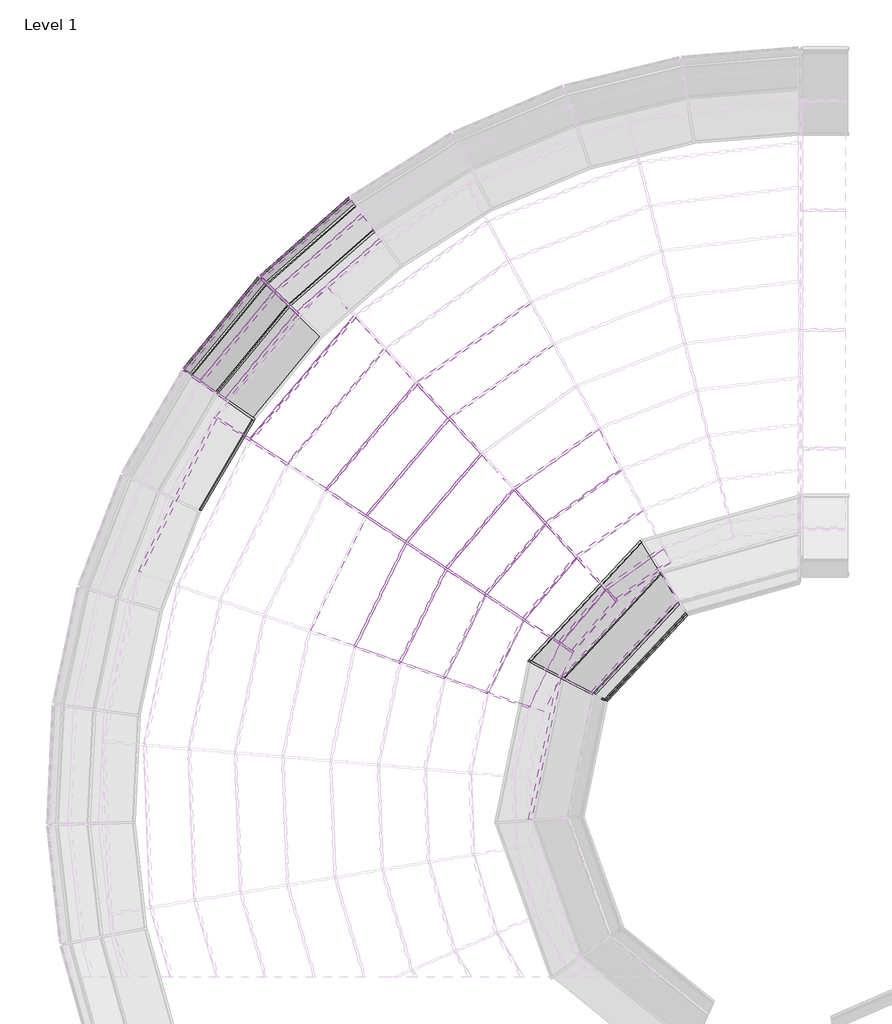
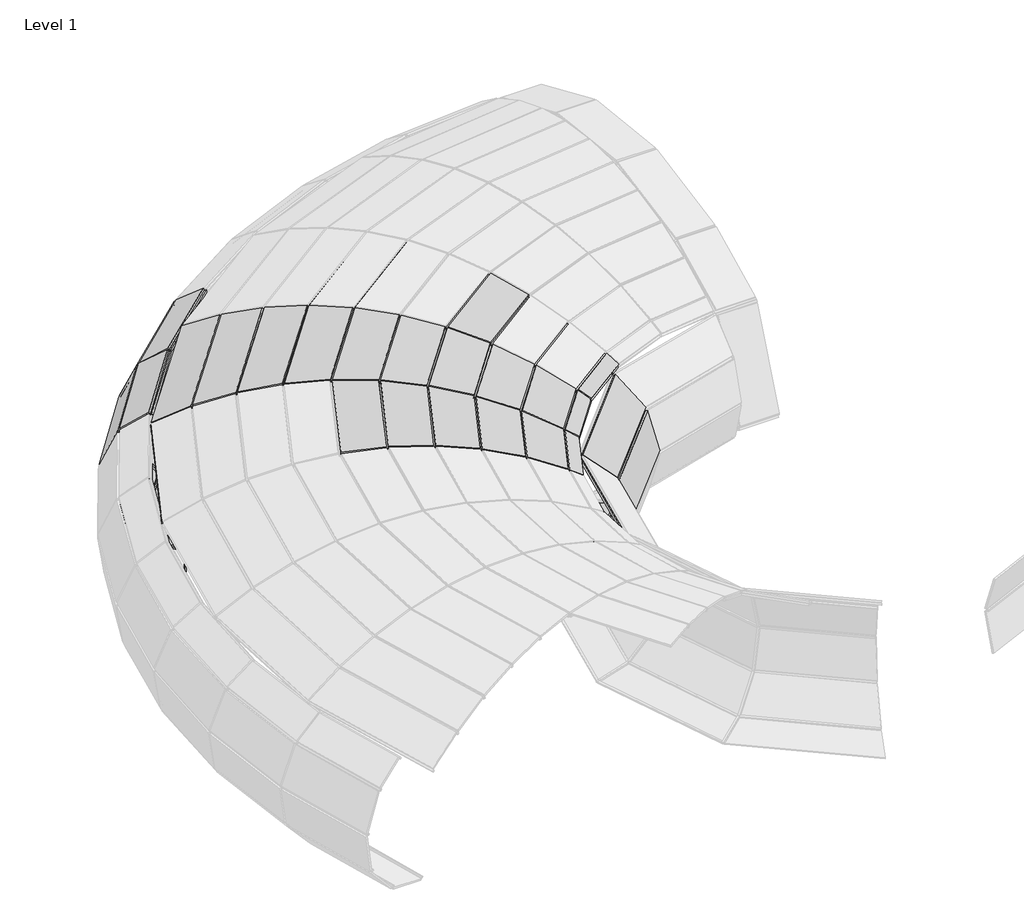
# One storey, part 14 of 23: 69 members, 30 plates.
"""IFC4 building model written with IfcOpenShell, lengths in millimetres."""

from ifc_helpers import new_model, si_unit, origin, place, context, project, spatial, transform, mapped, element, save
from components import member_d6b8231b, member_8c9da58c, member_391bee44, member_01ebdf2a, member_0cd36c09, member_d0a40a1c, member_ff9adfd2, member_e4cc2466, member_6c4aaba8, member_c876edb5, member_782630c7, member_398e5ff5, member_0ea93e7c, member_01d9c279, member_398607d0, member_5ccaa950, member_8174f0e4, member_af15374c, member_9c203333, member_86c07ba8, member_0e8a41c0, member_f532ae18, member_ff5bcfe9, member_5080b2ef, member_18f2ae55, member_cb0bb3a9, member_172ab1ab, member_54499f2f, member_c8b9029b, system_panel_glazed_a6d149b5, system_panel_glazed_185472ef, system_panel_glazed_d90a1b68, system_panel_glazed_7d733e69, system_panel_glazed_1f33159c, system_panel_glazed_b4bd1deb, system_panel_glazed_ffd0fcf6, system_panel_glazed_fd5b3178, system_panel_glazed_7646b435, system_panel_glazed_4562f0d4, system_panel_glazed_020edd5b, system_panel_glazed_973a940c, system_panel_glazed_7e9fb579, system_panel_glazed_aab04364, system_panel_glazed_9094d4f4, system_panel_glazed_e73db01d, system_panel_glazed_0c479225, system_panel_glazed_5bffbcfe, system_panel_glazed_024423c3

model = new_model("IFC4")

# Units and contexts
model_context = context("Model", 3, world=origin())
ifc_project = project(units=[si_unit("LENGTHUNIT", "METRE", prefix="MILLI")], contexts=[model_context])

# Site, building, storey
site = spatial("IfcSite", under=ifc_project)
building = spatial("IfcBuilding", under=site)
storey = spatial("IfcBuildingStorey", under=building, Name="Level 1", Elevation=0.0)

# Members
placement = place(None, origin())
member_shape = member_d6b8231b(model_context)
element("IfcMember", 1, ObjectType="Rectangular Mullion : 1\" Square", at=placement, inside=storey, context=model_context, shape_type="MappedRepresentation", body=[
    mapped(member_shape, transform((-16847.7563878, 3496.1601929, 0.0), x_axis=(-0.5725189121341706, -0.8198915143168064, 0.0), y_axis=(-0.22981368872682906, 0.16047572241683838, -0.9599131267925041), z_axis=(0.7870246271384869, -0.5495684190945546, -0.28029767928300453))),
])
member_2_shape = member_8c9da58c(model_context)
element("IfcMember", 2, ObjectType="Rectangular Mullion : 1\" Square", at=placement, inside=storey, context=model_context, shape_type="MappedRepresentation", body=[
    mapped(member_2_shape, transform((-16406.6716612, 4947.645606, 170.8694653), x_axis=(-0.6959761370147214, -0.7180649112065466, 0.0), y_axis=(-0.540562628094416, 0.523934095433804, -0.6582439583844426), z_axis=(0.472661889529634, -0.4581220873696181, -0.7528046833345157))),
])
element("IfcMember", 3, ObjectType="Rectangular Mullion : 1\" Square", at=placement, inside=storey, context=model_context, shape_type="MappedRepresentation", body=[
    mapped(member_2_shape, transform((-16694.8063491, 5226.9168304, 629.7792003), x_axis=(-0.695976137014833, -0.7180649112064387, 0.0), y_axis=(-0.7099722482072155, 0.6881324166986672, -0.1497103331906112), z_axis=(0.10750173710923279, -0.10419481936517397, -0.9887299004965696))),
])
element("IfcMember", 4, ObjectType="Rectangular Mullion : 1\" Square", at=placement, inside=storey, context=model_context, shape_type="MappedRepresentation", body=[
    mapped(member_2_shape, transform((-17327.5266005, 3831.1771012, 170.8694653), x_axis=(-0.5725189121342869, -0.819891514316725, 0.0), y_axis=(-0.6172181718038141, 0.43099491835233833, -0.6582439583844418), z_axis=(0.5396886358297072, -0.37685711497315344, -0.7528046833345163))),
])
element("IfcMember", 5, ObjectType="Rectangular Mullion : 1\" Square", at=placement, inside=storey, context=model_context, shape_type="MappedRepresentation", body=[
    mapped(member_2_shape, transform((-17656.5207929, 4060.9091985, 629.7792003), x_axis=(-0.5725189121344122, -0.8198915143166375, 0.0), y_axis=(-0.8106512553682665, 0.5660665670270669, -0.14971033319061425), z_axis=(0.1227462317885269, -0.08571199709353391, -0.9887299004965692))),
])
member_3_shape = member_391bee44(model_context)
element("IfcMember", 6, ObjectType="Rectangular Mullion : 1\" Square", at=placement, inside=storey, context=model_context, shape_type="MappedRepresentation", body=[
    mapped(member_3_shape, transform((-16760.339408, 5290.4339923, 1232.5089476), x_axis=(-0.695976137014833, -0.7180649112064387, 0.0), y_axis=(-0.6562609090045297, 0.6360733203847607, 0.4058723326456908), z_axis=(-0.2914426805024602, 0.2824774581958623, -0.9139297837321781))),
])
element("IfcMember", 7, ObjectType="Rectangular Mullion : 1\" Square", at=placement, inside=storey, context=model_context, shape_type="MappedRepresentation", body=[
    mapped(member_3_shape, transform((-17731.3468958, 4113.1592319, 1232.5089476), x_axis=(-0.5725189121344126, -0.8198915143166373, 0.0), y_axis=(-0.749323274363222, 0.5232420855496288, 0.40587233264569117), z_axis=(-0.3327712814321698, 0.23236958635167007, -0.9139297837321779))),
])
member_4_shape = member_01ebdf2a(model_context)
element("IfcMember", 8, ObjectType="Rectangular Mullion : 1\" Square", at=placement, inside=storey, context=model_context, shape_type="MappedRepresentation", body=[
    mapped(member_4_shape, transform((-16582.67595, 5118.2357338, 1789.6405438), x_axis=(-0.6959761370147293, -0.718064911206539, 0.0), y_axis=(-0.4278661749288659, 0.41470435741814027, 0.8030883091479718), z_axis=(-0.5766695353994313, 0.5589302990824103, -0.5958600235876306))),
])
element("IfcMember", 9, ObjectType="Rectangular Mullion : 1\" Square", at=placement, inside=storey, context=model_context, shape_type="MappedRepresentation", body=[
    mapped(member_4_shape, transform((-17528.4895226, 3971.5067321, 1789.6405438), x_axis=(-0.5725189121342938, -0.8198915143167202, 0.0), y_axis=(-0.48854057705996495, 0.3411411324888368, 0.8030883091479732), z_axis=(-0.6584452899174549, 0.4597832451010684, -0.5958600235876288))),
])
member_5_shape = member_0cd36c09(model_context)
element("IfcMember", 10, ObjectType="Rectangular Mullion : 1\" Square", at=placement, inside=storey, context=model_context, shape_type="MappedRepresentation", body=[
    mapped(member_5_shape, transform((-14782.0503771, 3958.0936242, 2763.3769688), x_axis=(-0.7366889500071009, -0.6762317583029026, 0.0), y_axis=(-0.09628869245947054, 0.10489719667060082, 0.9898106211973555), z_axis=(-0.6693413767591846, 0.7291825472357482, -0.14239007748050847))),
])
element("IfcMember", 11, ObjectType="Rectangular Mullion : 1\" Square", at=placement, inside=storey, context=model_context, shape_type="MappedRepresentation", body=[
    mapped(member_5_shape, transform((-14374.0198738, 3513.5839434, 2850.17796), x_axis=(-0.7366889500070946, -0.6762317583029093, 0.0), y_axis=(-0.015910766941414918, 0.01733323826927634, 0.9997231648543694), z_axis=(-0.6760445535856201, 0.7364850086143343, -0.02352857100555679))),
])
element("IfcMember", 12, ObjectType="Rectangular Mullion : 1\" Square", at=placement, inside=storey, context=model_context, shape_type="MappedRepresentation", body=[
    mapped(member_5_shape, transform((-16898.66094, 3236.6483389, 2378.3537392), x_axis=(-0.5485388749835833, -0.8361250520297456, 0.0), y_axis=(-0.3113511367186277, 0.20426155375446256, 0.9280828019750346), z_axis=(-0.7759932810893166, 0.5090894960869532, -0.3723738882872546))),
])
element("IfcMember", 13, ObjectType="Rectangular Mullion : 1\" Square", at=placement, inside=storey, context=model_context, shape_type="MappedRepresentation", body=[
    mapped(member_5_shape, transform((-15933.3368853, 2603.3486074, 2763.3769688), x_axis=(-0.5485388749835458, -0.8361250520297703, 0.0), y_axis=(-0.11905591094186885, 0.07810649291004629, 0.9898106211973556), z_axis=(-0.8276054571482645, 0.5429496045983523, -0.14239007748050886))),
])
element("IfcMember", 14, ObjectType="Rectangular Mullion : 1\" Square", at=placement, inside=storey, context=model_context, shape_type="MappedRepresentation", body=[
    mapped(member_5_shape, transform((-15428.8285986, 2272.3665284, 2850.17796), x_axis=(-0.5485388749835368, -0.8361250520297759, 0.0), y_axis=(-0.019672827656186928, 0.012906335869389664, 0.9997231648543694), z_axis=(-0.8358935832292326, 0.548387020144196, -0.02352857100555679))),
])
element("IfcMember", 15, ObjectType="Rectangular Mullion : 1\" Square", at=placement, inside=storey, context=model_context, shape_type="MappedRepresentation", body=[
    mapped(member_5_shape, transform((-13551.5630008, 2617.5969053, 2806.2019711), x_axis=(-0.7366889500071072, -0.6762317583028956, 0.0), y_axis=(0.1443774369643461, -0.15728522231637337, 0.9769424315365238), z_axis=(-0.660639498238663, 0.7197026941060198, 0.2135028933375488))),
])
element("IfcMember", 16, ObjectType="Rectangular Mullion : 1\" Square", at=placement, inside=storey, context=model_context, shape_type="MappedRepresentation", body=[
    mapped(member_5_shape, transform((-13148.8371627, 2178.866143, 2676.0506073), x_axis=(-0.7366889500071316, -0.6762317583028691, 0.0), y_axis=(0.22200740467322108, -0.2418555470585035, 0.9445732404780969), z_axis=(-0.6387504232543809, 0.6958566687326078, 0.3283007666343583))),
])
element("IfcMember", 17, ObjectType="Rectangular Mullion : 1\" Square", at=placement, inside=storey, context=model_context, shape_type="MappedRepresentation", body=[
    mapped(member_5_shape, transform((-14919.2678703, 1938.069801, 2864.5209769), x_axis=(-0.5485388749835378, -0.8361250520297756, 0.0), y_axis=(0.07999012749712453, -0.05247743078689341, 0.9954133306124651), z_axis=(-0.8322900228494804, 0.5460229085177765, 0.09566766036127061))),
])
element("IfcMember", 18, ObjectType="Rectangular Mullion : 1\" Square", at=placement, inside=storey, context=model_context, shape_type="MappedRepresentation", body=[
    mapped(member_5_shape, transform((-14411.9038723, 1605.2142359, 2806.2019711), x_axis=(-0.5485388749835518, -0.8361250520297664, 0.0), y_axis=(0.17851511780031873, -0.11711463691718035, 0.9769424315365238), z_axis=(-0.8168460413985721, 0.5358909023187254, 0.21350289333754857))),
])
element("IfcMember", 19, ObjectType="Rectangular Mullion : 1\" Square", at=placement, inside=storey, context=model_context, shape_type="MappedRepresentation", body=[
    mapped(member_5_shape, transform((-13913.9545255, 1278.5351419, 2676.0506073), x_axis=(-0.548538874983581, -0.8361250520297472, 0.0), y_axis=(0.2745004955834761, -0.1800857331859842, 0.944573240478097), z_axis=(-0.7897813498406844, 0.5181351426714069, 0.3283007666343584))),
])
element("IfcMember", 20, ObjectType="Rectangular Mullion : 1\" Square", at=placement, inside=storey, context=model_context, shape_type="MappedRepresentation", body=[
    mapped(member_5_shape, transform((-15571.4158676, 611.2798175, 2864.5209769), x_axis=(-0.3269464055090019, -0.9450428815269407, 0.0), y_axis=(0.09041004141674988, -0.031278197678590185, 0.9954133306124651), z_axis=(-0.9407082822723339, 0.3254468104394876, 0.09566766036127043))),
])
element("IfcMember", 21, ObjectType="Rectangular Mullion : 1\" Square", at=placement, inside=storey, context=model_context, shape_type="MappedRepresentation", body=[
    mapped(member_5_shape, transform((-14997.9600987, 412.8874418, 2806.2019711), x_axis=(-0.3269464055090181, -0.9450428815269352, 0.0), y_axis=(0.20176938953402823, -0.06980400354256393, 0.9769424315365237), z_axis=(-0.9232524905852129, 0.31940781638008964, 0.21350289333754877))),
])
element("IfcMember", 22, ObjectType="Rectangular Mullion : 1\" Square", at=placement, inside=storey, context=model_context, shape_type="MappedRepresentation", body=[
    mapped(member_5_shape, transform((-14435.1453805, 218.176437, 2676.0506073), x_axis=(-0.3269464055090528, -0.9450428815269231, 0.0), y_axis=(0.31025830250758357, -0.1073367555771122, 0.9445732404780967), z_axis=(-0.8926622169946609, 0.3088248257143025, 0.3283007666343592))),
])
member_6_shape = member_d0a40a1c(model_context)
element("IfcMember", 23, ObjectType="Rectangular Mullion : 1\" Square", at=placement, inside=storey, context=model_context, shape_type="MappedRepresentation", body=[
    mapped(member_6_shape, transform((-12759.4549047, 1754.6719177, 2475.91846), x_axis=(-0.736688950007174, -0.676231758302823, 0.0), y_axis=(0.29647902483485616, -0.32298515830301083, 0.8987662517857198), z_axis=(-0.607774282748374, 0.6621111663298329, 0.438428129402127))),
])
element("IfcMember", 24, ObjectType="Rectangular Mullion : 1\" Square", at=placement, inside=storey, context=model_context, shape_type="MappedRepresentation", body=[
    mapped(member_6_shape, transform((-13432.5038146, 962.6799589, 2475.91846), x_axis=(-0.5485388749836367, -0.8361250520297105, 0.0), y_axis=(0.3665807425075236, -0.2404948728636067, 0.8987662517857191), z_axis=(-0.7514809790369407, 0.49300822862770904, 0.4384281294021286))),
])
element("IfcMember", 25, ObjectType="Rectangular Mullion : 1\" Square", at=placement, inside=storey, context=model_context, shape_type="MappedRepresentation", body=[
    mapped(member_6_shape, transform((-13890.978493, 29.9168232, 2475.91846), x_axis=(-0.326946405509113, -0.9450428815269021, 0.0), y_axis=(0.414333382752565, -0.14334250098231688, 0.8987662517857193), z_axis=(-0.8493726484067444, 0.2938483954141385, 0.4384281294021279))),
])
member_7_shape = member_ff9adfd2(model_context)
element("IfcMember", 26, ObjectType="Rectangular Mullion : 1\" Square", at=placement, inside=storey, context=model_context, shape_type="MappedRepresentation", body=[
    mapped(member_7_shape, transform((-12388.9557019, 1351.0489507, 2208.6526723), x_axis=(-0.7366889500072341, -0.6762317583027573, 0.0), y_axis=(0.34596383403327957, -0.3768940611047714, 0.8592205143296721), z_axis=(-0.581032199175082, 0.632978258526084, 0.5116054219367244))),
])
element("IfcMember", 27, ObjectType="Rectangular Mullion : 1\" Square", at=placement, inside=storey, context=model_context, shape_type="MappedRepresentation", body=[
    mapped(member_7_shape, transform((-12974.4010098, 662.1421427, 2208.6526723), x_axis=(-0.5485388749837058, -0.8361250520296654, 0.0), y_axis=(0.4277661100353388, -0.28063546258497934, 0.8592205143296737), z_axis=(-0.7184157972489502, 0.4713158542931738, 0.5116054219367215))),
])
member_8_shape = member_e4cc2466(model_context)
element("IfcMember", 28, ObjectType="Rectangular Mullion : 1\" Square", at=placement, inside=storey, context=model_context, shape_type="MappedRepresentation", body=[
    mapped(member_8_shape, transform((-17345.7437028, 3529.9564693, 2085.6089632), x_axis=(-0.548538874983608, -0.8361250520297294, 0.0), y_axis=(-0.40152762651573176, 0.26342173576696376, 0.8771456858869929), z_axis=(-0.7334034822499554, 0.48114850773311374, -0.48022437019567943))),
])
element("IfcMember", 29, ObjectType="Rectangular Mullion : 1\" Square", at=placement, inside=storey, context=model_context, shape_type="MappedRepresentation", body=[
    mapped(member_2_shape, transform((-12565.3444488, 24.0008489, 1696.6281859), x_axis=(-0.4589979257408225, -0.8884373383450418, 0.0), y_axis=(0.8459339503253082, -0.4370391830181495, 0.305601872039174), z_axis=(-0.2715081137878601, 0.14027062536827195, 0.952159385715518))),
])
element("IfcMember", 30, ObjectType="Rectangular Mullion : 1\" Square", at=placement, inside=storey, context=model_context, shape_type="MappedRepresentation", body=[
    mapped(member_3_shape, transform((-12537.8290534, 9.7854294, 526.7119632), x_axis=(-0.45899792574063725, -0.8884373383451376, 0.0), y_axis=(0.6023028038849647, -0.31117077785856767, -0.7351218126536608), z_axis=(0.6531096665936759, -0.3374193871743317, 0.6779350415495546))),
])
element("IfcMember", 31, ObjectType="Rectangular Mullion : 1\" Square", at=placement, inside=storey, context=model_context, shape_type="MappedRepresentation", body=[
    mapped(member_4_shape, transform((-12935.9647062, 215.4762879, 113.4427618), x_axis=(-0.4589979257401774, -0.8884373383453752, 0.0), y_axis=(0.20290954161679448, -0.10483019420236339, -0.9735698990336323), z_axis=(0.8649558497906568, -0.44686656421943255, 0.22838925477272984))),
])
element("IfcMember", 32, ObjectType="Rectangular Mullion : 1\" Square", at=placement, inside=storey, context=model_context, shape_type="MappedRepresentation", body=[
    mapped(member_shape, transform((-12982.3483119, 239.4396873, 2085.6089632), x_axis=(-0.4589979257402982, -0.8884373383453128, 0.0), y_axis=(0.5669046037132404, -0.2928828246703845, 0.7699602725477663), z_axis=(-0.6840614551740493, 0.3534101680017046, 0.6380918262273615))),
])
member_9_shape = member_6c4aaba8(model_context)
element("IfcMember", 33, ObjectType="Rectangular Mullion : 1\" Square", at=placement, inside=storey, context=model_context, shape_type="MappedRepresentation", body=[
    mapped(member_9_shape, transform((-16890.4368284, 3246.325838, 2378.3537392), x_axis=(0.6900506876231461, -0.5864173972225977, 0.4241988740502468), y_axis=(-0.3232428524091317, 0.2746975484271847, 0.9055690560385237), z_axis=(-0.6475678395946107, -0.7620078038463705, 0.0))),
])
member_10_shape = member_c876edb5(model_context)
element("IfcMember", 34, ObjectType="Rectangular Mullion : 1\" Square", at=placement, inside=storey, context=model_context, shape_type="MappedRepresentation", body=[
    mapped(member_10_shape, transform((-13138.4925219, 2186.2335311, 2676.0506073), x_axis=(0.558593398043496, -0.7843279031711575, -0.2698205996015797), y_axis=(0.15652543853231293, -0.21977930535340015, 0.962910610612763), z_axis=(-0.8145386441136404, -0.5801092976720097, 0.0))),
])
element("IfcMember", 35, ObjectType="Rectangular Mullion : 1\" Square", at=placement, inside=storey, context=model_context, shape_type="MappedRepresentation", body=[
    mapped(member_10_shape, transform((-13905.7304139, 1288.212641, 2676.0506073), x_axis=(0.7337453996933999, -0.6235499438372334, -0.26982059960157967), y_axis=(0.20560540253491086, -0.17472714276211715, 0.9629106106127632), z_axis=(-0.6475678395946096, -0.7620078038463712, 0.0))),
])
element("IfcMember", 36, ObjectType="Rectangular Mullion : 1\" Square", at=placement, inside=storey, context=model_context, shape_type="MappedRepresentation", body=[
    mapped(member_10_shape, transform((-14429.5431919, 229.5740456, 2676.0506073), x_axis=(0.8641636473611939, -0.42475644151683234, -0.2698205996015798), y_axis=(0.2421503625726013, -0.11902250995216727, 0.962910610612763), z_axis=(-0.4411172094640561, -0.8974495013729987, 0.0))),
])
member_11_shape = member_782630c7(model_context)
element("IfcMember", 37, ObjectType="Rectangular Mullion : 1\" Square", at=placement, inside=storey, context=model_context, shape_type="MappedRepresentation", body=[
    mapped(member_11_shape, transform((-12749.1102639, 1762.0393058, 2475.91846), x_axis=(0.5361352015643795, -0.7527940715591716, -0.38191639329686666), y_axis=(0.22155325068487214, -0.3110856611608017, 0.9241968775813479), z_axis=(-0.8145386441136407, -0.5801092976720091, 0.0))),
])
element("IfcMember", 38, ObjectType="Rectangular Mullion : 1\" Square", at=placement, inside=storey, context=model_context, shape_type="MappedRepresentation", body=[
    mapped(member_11_shape, transform((-13424.2797031, 972.357458, 2475.91846), x_axis=(0.7042452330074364, -0.5984801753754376, -0.38191639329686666), y_axis=(0.29102327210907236, -0.24731677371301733, 0.924196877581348), z_axis=(-0.64756783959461, -0.7620078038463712, 0.0))),
])
element("IfcMember", 39, ObjectType="Rectangular Mullion : 1\" Square", at=placement, inside=storey, context=model_context, shape_type="MappedRepresentation", body=[
    mapped(member_11_shape, transform((-13885.3763044, 41.3144319, 2475.91846), x_axis=(0.8294200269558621, -0.4076791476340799, -0.3819163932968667), y_axis=(0.3427506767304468, -0.1684698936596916, 0.924196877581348), z_axis=(-0.44111720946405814, -0.8974495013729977, 0.0))),
])
member_12_shape = member_398e5ff5(model_context)
element("IfcMember", 40, ObjectType="Rectangular Mullion : 1\" Square", at=placement, inside=storey, context=model_context, shape_type="MappedRepresentation", body=[
    mapped(member_12_shape, transform((-12378.6110611, 1358.4163388, 2208.6526723), x_axis=(0.5060932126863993, -0.7106117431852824, -0.48877460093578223), y_axis=(0.2835426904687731, -0.39812580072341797, 0.8724101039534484), z_axis=(-0.8145386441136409, -0.580109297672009, 0.0))),
])
element("IfcMember", 41, ObjectType="Rectangular Mullion : 1\" Square", at=placement, inside=storey, context=model_context, shape_type="MappedRepresentation", body=[
    mapped(member_12_shape, transform((-12966.1768982, 671.8196418, 2208.6526723), x_axis=(0.6647833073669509, -0.5649447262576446, -0.4887746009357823), y_axis=(0.37245006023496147, -0.3165147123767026, 0.8724101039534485), z_axis=(-0.6475678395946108, -0.7620078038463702, 0.0))),
])
member_13_shape = member_0ea93e7c(model_context)
element("IfcMember", 42, ObjectType="Rectangular Mullion : 1\" Square", at=placement, inside=storey, context=model_context, shape_type="MappedRepresentation", body=[
    mapped(member_13_shape, transform((-14771.7057363, 3965.4610123, 2763.3769688), x_axis=(0.5684549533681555, -0.7981746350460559, 0.19943976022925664), y_axis=(-0.11569685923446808, 0.16245139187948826, 0.97991008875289), z_axis=(-0.8145386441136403, -0.5801092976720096, 0.0))),
])
element("IfcMember", 43, ObjectType="Rectangular Mullion : 1\" Square", at=placement, inside=storey, context=model_context, shape_type="MappedRepresentation", body=[
    mapped(member_13_shape, transform((-15925.1127737, 2613.0261065, 2763.3769688), x_axis=(0.7466991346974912, -0.6345582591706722, 0.19943976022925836), y_axis=(-0.15197465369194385, 0.12915077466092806, 0.9799100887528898), z_axis=(-0.6475678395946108, -0.7620078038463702, 0.0))),
])
member_14_shape = member_01d9c279(model_context)
element("IfcMember", 44, ObjectType="Rectangular Mullion : 1\" Square", at=placement, inside=storey, context=model_context, shape_type="MappedRepresentation", body=[
    mapped(member_14_shape, transform((-14363.675233, 3520.9513315, 2850.17796), x_axis=(0.5781463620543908, -0.8117824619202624, 0.08219500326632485), y_axis=(-0.04768208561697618, 0.06695100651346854, 0.9966162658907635), z_axis=(-0.814538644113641, -0.5801092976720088, 0.0))),
])
element("IfcMember", 45, ObjectType="Rectangular Mullion : 1\" Square", at=placement, inside=storey, context=model_context, shape_type="MappedRepresentation", body=[
    mapped(member_14_shape, transform((-15420.604487, 2282.0440275, 2850.17796), x_axis=(0.7594293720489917, -0.6453766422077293, 0.0821950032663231), y_axis=(-0.06263323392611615, 0.05322684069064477, 0.9966162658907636), z_axis=(-0.6475678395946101, -0.7620078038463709, 0.0))),
])
member_15_shape = member_398607d0(model_context)
element("IfcMember", 46, ObjectType="Rectangular Mullion : 1\" Square", at=placement, inside=storey, context=model_context, shape_type="MappedRepresentation", body=[
    mapped(member_15_shape, transform((-14911.0437587, 1947.7473001, 2864.5209769), x_axis=(0.7615092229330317, -0.6471441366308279, -0.03616863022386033), y_axis=(0.027560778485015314, -0.02342164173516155, 0.9993457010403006), z_axis=(-0.6475678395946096, -0.7620078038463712, 0.0))),
])
element("IfcMember", 47, ObjectType="Rectangular Mullion : 1\" Square", at=placement, inside=storey, context=model_context, shape_type="MappedRepresentation", body=[
    mapped(member_15_shape, transform((-15565.8136791, 622.6774261, 2864.5209769), x_axis=(0.8968623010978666, -0.4408285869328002, -0.03616863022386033), y_axis=(0.0324595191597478, -0.015954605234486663, 0.9993457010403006), z_axis=(-0.4411172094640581, -0.8974495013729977, 0.0))),
])
member_16_shape = member_5ccaa950(model_context)
element("IfcMember", 48, ObjectType="Rectangular Mullion : 1\" Square", at=placement, inside=storey, context=model_context, shape_type="MappedRepresentation", body=[
    mapped(member_16_shape, transform((-13541.21836, 2624.9642934, 2806.2019711), x_axis=(0.5731852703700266, -0.8048165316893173, -0.15404218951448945), y_axis=(0.08936130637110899, -0.12547331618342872, 0.9880642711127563), z_axis=(-0.8145386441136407, -0.580109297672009, 0.0))),
])
element("IfcMember", 49, ObjectType="Rectangular Mullion : 1\" Square", at=placement, inside=storey, context=model_context, shape_type="MappedRepresentation", body=[
    mapped(member_16_shape, transform((-14403.6797608, 1614.891735, 2806.2019711), x_axis=(0.7529126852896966, -0.639838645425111, -0.15404218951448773), y_axis=(0.11738135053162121, -0.09975276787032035, 0.9880642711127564), z_axis=(-0.6475678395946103, -0.7620078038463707, 0.0))),
])
element("IfcMember", 50, ObjectType="Rectangular Mullion : 1\" Square", at=placement, inside=storey, context=model_context, shape_type="MappedRepresentation", body=[
    mapped(member_16_shape, transform((-14992.3579102, 424.2850505, 2806.2019711), x_axis=(0.8867377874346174, -0.43585215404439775, -0.15404218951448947), y_axis=(0.13824508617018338, -0.06795066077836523, 0.9880642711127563), z_axis=(-0.44111720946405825, -0.8974495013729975, 0.0))),
])
member_17_shape = member_8174f0e4(model_context)
element("IfcMember", 51, ObjectType="Rectangular Mullion : 1\" Square", at=placement, inside=storey, context=model_context, shape_type="MappedRepresentation", body=[
    mapped(member_17_shape, transform((-12238.8698585, 1206.1818444, 2085.6089632), x_axis=(0.4974352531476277, -0.6984549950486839, -0.5145082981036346), y_axis=(0.2984710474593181, -0.41908689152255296, 0.857485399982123), z_axis=(-0.8145386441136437, -0.580109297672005, 0.0))),
])
element("IfcMember", 52, ObjectType="Rectangular Mullion : 1\" Square", at=placement, inside=storey, context=model_context, shape_type="MappedRepresentation", body=[
    mapped(member_17_shape, transform((-12793.3942407, 558.4657789, 2085.6089632), x_axis=(0.6534105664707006, -0.5552799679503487, -0.514508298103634), y_axis=(0.3920593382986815, -0.33317902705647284, 0.8574853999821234), z_axis=(-0.6475678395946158, -0.762007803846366, 0.0))),
])
member_18_shape = member_af15374c(model_context)
element("IfcMember", 53, ObjectType="Rectangular Mullion : 1\" Square", at=placement, inside=storey, context=model_context, shape_type="MappedRepresentation", body=[
    mapped(member_18_shape, transform((-17351.3458913, 3518.5588606, 2085.6089632), x_axis=(-0.785792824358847, 0.3862353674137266, -0.4830650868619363), y_axis=(-0.43352652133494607, 0.2130883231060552, 0.8755844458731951), z_axis=(0.4411172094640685, 0.8974495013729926, 0.0))),
])
member_19_shape = member_9c203333(model_context)
element("IfcMember", 54, ObjectType="Rectangular Mullion : 1\" Square", at=placement, inside=storey, context=model_context, shape_type="MappedRepresentation", body=[
    mapped(member_19_shape, transform((-16854.170886, 3485.1991614, 0.0), x_axis=(0.828265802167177, -0.4847088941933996, -0.28112817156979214), y_axis=(-0.2426342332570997, 0.14199182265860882, -0.9596702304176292), z_axis=(0.505078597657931, 0.8630733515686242, 0.0))),
])
member_20_shape = member_86c07ba8(model_context)
element("IfcMember", 55, ObjectType="Rectangular Mullion : 1\" Square", at=placement, inside=storey, context=model_context, shape_type="MappedRepresentation", body=[
    mapped(member_20_shape, transform((-16397.1314043, 4956.0285349, 170.8694653), x_axis=(-0.557128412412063, 0.6340442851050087, 0.536279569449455), y_axis=(-0.35398374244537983, 0.40285392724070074, -0.8440404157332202), z_axis=(-0.7512013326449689, -0.6600731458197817, 0.0))),
])
element("IfcMember", 56, ObjectType="Rectangular Mullion : 1\" Square", at=placement, inside=storey, context=model_context, shape_type="MappedRepresentation", body=[
    mapped(member_20_shape, transform((-17319.4457462, 3840.9745394, 170.8694653), x_axis=(-0.6511365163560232, 0.5370525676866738, 0.536279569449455), y_axis=(-0.41371385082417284, 0.3412281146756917, -0.8440404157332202), z_axis=(-0.6362877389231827, -0.771451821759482, 0.0))),
])
member_21_shape = member_0e8a41c0(model_context)
element("IfcMember", 57, ObjectType="Rectangular Mullion : 1\" Square", at=placement, inside=storey, context=model_context, shape_type="MappedRepresentation", body=[
    mapped(member_21_shape, transform((-16685.2660922, 5235.2997594, 629.7792003), x_axis=(-0.2787345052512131, 0.31721595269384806, 0.9064662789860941), y_axis=(-0.5983340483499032, 0.6809386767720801, -0.42227820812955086), z_axis=(-0.7512013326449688, -0.6600731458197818, 0.0))),
])
element("IfcMember", 58, ObjectType="Rectangular Mullion : 1\" Square", at=placement, inside=storey, context=model_context, shape_type="MappedRepresentation", body=[
    mapped(member_21_shape, transform((-17648.4399386, 4070.7066366, 629.7792003), x_axis=(-0.3257672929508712, 0.2686904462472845, 0.9064662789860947), y_axis=(-0.6992950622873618, 0.576773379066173, -0.4222782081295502), z_axis=(-0.6362877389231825, -0.7714518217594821, 0.0))),
])
member_22_shape = member_f532ae18(model_context)
element("IfcMember", 59, ObjectType="Rectangular Mullion : 1\" Square", at=placement, inside=storey, context=model_context, shape_type="MappedRepresentation", body=[
    mapped(member_22_shape, transform((-16750.7991511, 5298.8169213, 1232.5089476), x_axis=(0.08842369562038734, -0.10063126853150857, 0.9909866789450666), y_axis=(-0.6541236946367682, 0.7444305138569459, 0.13396044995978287), z_axis=(-0.7512013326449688, -0.6600731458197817, 0.0))),
])
element("IfcMember", 60, ObjectType="Rectangular Mullion : 1\" Square", at=placement, inside=storey, context=model_context, shape_type="MappedRepresentation", body=[
    mapped(member_22_shape, transform((-17723.2660415, 4122.9566701, 1232.5089476), x_axis=(0.10334403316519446, -0.0852373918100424, 0.9909866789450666), y_axis=(-0.7644984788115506, 0.6305526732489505, 0.1339604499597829), z_axis=(-0.6362877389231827, -0.7714518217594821, 0.0))),
])
member_23_shape = member_ff5bcfe9(model_context)
element("IfcMember", 61, ObjectType="Rectangular Mullion : 1\" Square", at=placement, inside=storey, context=model_context, shape_type="MappedRepresentation", body=[
    mapped(member_23_shape, transform((-16573.1356931, 5126.6186628, 1789.6405438), x_axis=(0.4273307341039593, -0.48632703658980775, 0.7621512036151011), y_axis=(-0.5030755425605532, 0.5725289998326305, 0.6473990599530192), z_axis=(-0.7512013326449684, -0.6600731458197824, 0.0))),
])
element("IfcMember", 62, ObjectType="Rectangular Mullion : 1\" Square", at=placement, inside=storey, context=model_context, shape_type="MappedRepresentation", body=[
    mapped(member_23_shape, transform((-17520.4086683, 3981.3041702, 1789.6405438), x_axis=(0.4994371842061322, -0.4119320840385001, 0.7621512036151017), y_axis=(-0.5879629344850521, 0.4849474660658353, 0.6473990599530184), z_axis=(-0.6362877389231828, -0.7714518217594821, 0.0))),
])
member_24_shape = member_5080b2ef(model_context)
element("IfcMember", 63, ObjectType="Rectangular Mullion : 1\" Square", at=placement, inside=storey, context=model_context, shape_type="MappedRepresentation", body=[
    mapped(member_24_shape, transform((-16286.699342, 4848.9935317, 2085.6089632), x_axis=(0.5294916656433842, -0.6025920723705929, 0.5970941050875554), y_axis=(-0.3941257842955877, 0.4485378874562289, 0.8021711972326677), z_axis=(-0.7512013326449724, -0.6600731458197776, 0.0))),
])
element("IfcMember", 64, ObjectType="Rectangular Mullion : 1\" Square", at=placement, inside=storey, context=model_context, shape_type="MappedRepresentation", body=[
    mapped(member_24_shape, transform((-17193.3536487, 3752.9261705, 2085.6089632), x_axis=(0.6188364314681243, -0.5104116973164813, 0.5970941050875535), y_axis=(-0.4606293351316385, 0.3799236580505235, 0.8021711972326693), z_axis=(-0.6362877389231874, -0.7714518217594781, 0.0))),
])
member_25_shape = member_18f2ae55(model_context)
element("IfcMember", 65, ObjectType="Rectangular Mullion : 1\" Square", at=placement, inside=storey, context=model_context, shape_type="MappedRepresentation", body=[
    mapped(member_25_shape, transform((-12556.6843912, 33.2902731, 1696.6281859), x_axis=(0.41906084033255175, -0.39066910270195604, -0.8196131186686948), y_axis=(0.5995066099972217, -0.5588895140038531, 0.5729173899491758), z_axis=(-0.6818943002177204, -0.7314507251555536, 0.0))),
])
member_26_shape = member_cb0bb3a9(model_context)
element("IfcMember", 66, ObjectType="Rectangular Mullion : 1\" Square", at=placement, inside=storey, context=model_context, shape_type="MappedRepresentation", body=[
    mapped(member_26_shape, transform((-12927.3046486, 224.7657121, 113.4427618), x_axis=(-0.658929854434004, 0.6142867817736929, -0.43412348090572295), y_axis=(0.31753993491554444, -0.2960263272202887, -0.9008533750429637), z_axis=(-0.6818943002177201, -0.7314507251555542, 0.0))),
])
member_27_shape = member_172ab1ab(model_context)
element("IfcMember", 67, ObjectType="Rectangular Mullion : 1\" Square", at=placement, inside=storey, context=model_context, shape_type="MappedRepresentation", body=[
    mapped(member_27_shape, transform((-13356.9351081, 446.7278935, 0.0), x_axis=(-0.7106614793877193, 0.6625135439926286, -0.23671938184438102), y_axis=(0.17314856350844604, -0.16141759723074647, -0.9715780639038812), z_axis=(-0.6818943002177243, -0.73145072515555, 0.0))),
])
member_28_shape = member_54499f2f(model_context)
element("IfcMember", 68, ObjectType="Rectangular Mullion : 1\" Square", at=placement, inside=storey, context=model_context, shape_type="MappedRepresentation", body=[
    mapped(member_28_shape, transform((-12529.1689958, 19.0748536, 526.7119632), x_axis=(-0.3863430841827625, 0.36016800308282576, -0.8491278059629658), y_axis=(0.6210951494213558, -0.5790154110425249, -0.5281874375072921), z_axis=(-0.6818943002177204, -0.7314507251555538, 0.0))),
])
member_29_shape = member_c8b9029b(model_context)
element("IfcMember", 69, ObjectType="Rectangular Mullion : 1\" Square", at=placement, inside=storey, context=model_context, shape_type="MappedRepresentation", body=[
    mapped(member_29_shape, transform((-12984.9135257, 227.0014528, 2085.6089632), x_axis=(-0.7422932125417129, 0.15308770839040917, 0.6523533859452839), y_axis=(0.6389074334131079, -0.13176582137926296, 0.7579149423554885), z_axis=(0.20198534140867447, 0.9793885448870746, 0.0))),
])

# Plates
system_panel_glazed_shape = system_panel_glazed_a6d149b5(model_context)
element("IfcPlate", 70, ObjectType="System Panel : Glazed", at=placement, inside=storey, context=model_context, shape_type="MappedRepresentation", body=[
    mapped(system_panel_glazed_shape, transform((-16618.1053063, 4351.8414657, 2097.8788164), x_axis=(-0.6475678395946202, -0.7620078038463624, 0.0), y_axis=(0.3680993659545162, -0.3128174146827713, -0.8755844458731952), z_axis=(0.6672021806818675, -0.5670003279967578, 0.48306508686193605))),
])
system_panel_glazed_2_shape = system_panel_glazed_185472ef(model_context)
element("IfcPlate", 71, ObjectType="System Panel : Glazed", at=placement, inside=storey, context=model_context, shape_type="MappedRepresentation", body=[
    mapped(system_panel_glazed_2_shape, transform((-16221.7456932, 4015.0079883, 2383.1142391), x_axis=(-0.6475678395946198, -0.7620078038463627, 0.0), y_axis=(0.28563291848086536, -0.24273595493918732, -0.9270885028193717), z_axis=(0.7064486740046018, -0.6003526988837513, 0.37484251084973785))),
])
system_panel_glazed_3_shape = system_panel_glazed_d90a1b68(model_context)
element("IfcPlate", 72, ObjectType="System Panel : Glazed", at=placement, inside=storey, context=model_context, shape_type="MappedRepresentation", body=[
    mapped(system_panel_glazed_3_shape, transform((-15793.5608106, 3651.1288286, 2608.668686), x_axis=(-0.6475678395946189, -0.7620078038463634, 0.0), y_axis=(0.19895150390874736, -0.1690725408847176, -0.9653148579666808), z_axis=(0.7355774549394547, -0.62510685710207, 0.2610885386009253))),
])
system_panel_glazed_4_shape = system_panel_glazed_7d733e69(model_context)
element("IfcPlate", 73, ObjectType="System Panel : Glazed", at=placement, inside=storey, context=model_context, shape_type="MappedRepresentation", body=[
    mapped(system_panel_glazed_4_shape, transform((-15348.1162424, 3272.5820797, 2765.1989775), x_axis=(-0.6475678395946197, -0.7620078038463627, 0.0), y_axis=(0.1093216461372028, -0.09290348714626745, -0.9896553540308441), z_axis=(0.7541251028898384, -0.6408689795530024, 0.14346525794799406))),
])
system_panel_glazed_5_shape = system_panel_glazed_1f33159c(model_context)
element("IfcPlate", 74, ObjectType="System Panel : Glazed", at=placement, inside=storey, context=model_context, shape_type="MappedRepresentation", body=[
    mapped(system_panel_glazed_5_shape, transform((-14891.7494576, 2884.7534363, 2850.4790751), x_axis=(-0.6475678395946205, -0.7620078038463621, 0.0), y_axis=(0.0180670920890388, -0.015353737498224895, -0.9997188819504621), z_axis=(0.7617935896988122, -0.6473857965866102, 0.023709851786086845))),
])
element("IfcPlate", 75, ObjectType="System Panel : Glazed", at=placement, inside=storey, context=model_context, shape_type="MappedRepresentation", body=[
    mapped(system_panel_glazed_5_shape, transform((-15776.6971567, 1535.8482361, 2850.4790751), x_axis=(-0.44111720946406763, -0.8974495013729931, 0.0), y_axis=(0.021278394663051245, -0.010458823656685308, -0.9997188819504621), z_axis=(0.8971972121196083, -0.4409932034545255, 0.023709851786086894))),
])
system_panel_glazed_6_shape = system_panel_glazed_b4bd1deb(model_context)
element("IfcPlate", 76, ObjectType="System Panel : Glazed", at=placement, inside=storey, context=model_context, shape_type="MappedRepresentation", body=[
    mapped(system_panel_glazed_6_shape, transform((-14430.9530627, 2493.160431, 2863.296718), x_axis=(-0.6475678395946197, -0.7620078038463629, 0.0), y_axis=(-0.07345628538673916, 0.062424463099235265, -0.9953428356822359), z_axis=(0.7584590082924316, -0.644552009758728, -0.0963983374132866))),
])
element("IfcPlate", 77, ObjectType="System Panel : Glazed", at=placement, inside=storey, context=model_context, shape_type="MappedRepresentation", body=[
    mapped(system_panel_glazed_6_shape, transform((-15233.9973408, 1269.098711, 2863.296718), x_axis=(-0.44111720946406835, -0.8974495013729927, 0.0), y_axis=(-0.08651263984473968, 0.04252296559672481, -0.9953428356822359), z_axis=(0.893269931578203, -0.4390628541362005, -0.09639833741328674))),
])
system_panel_glazed_7_shape = system_panel_glazed_ffd0fcf6(model_context)
element("IfcPlate", 78, ObjectType="System Panel : Glazed", at=placement, inside=storey, context=model_context, shape_type="MappedRepresentation", body=[
    mapped(system_panel_glazed_7_shape, transform((-13003.2811729, 2992.8530013, 2803.4705448), x_axis=(-0.8145386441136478, -0.580109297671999, 0.0), y_axis=(-0.1247658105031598, 0.17518521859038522, -0.9765979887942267), z_axis=(0.5665335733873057, -0.7954768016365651, -0.2150729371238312))),
])
element("IfcPlate", 79, ObjectType="System Panel : Glazed", at=placement, inside=storey, context=model_context, shape_type="MappedRepresentation", body=[
    mapped(system_panel_glazed_7_shape, transform((-13972.2824104, 2103.3739198, 2803.4705448), x_axis=(-0.6475678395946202, -0.7620078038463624, 0.0), y_axis=(-0.16388725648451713, 0.13927431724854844, -0.9765979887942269), z_axis=(0.7441752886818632, -0.6324134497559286, -0.21507293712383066))),
])
element("IfcPlate", 80, ObjectType="System Panel : Glazed", at=placement, inside=storey, context=model_context, shape_type="MappedRepresentation", body=[
    mapped(system_panel_glazed_7_shape, transform((-14693.8011038, 1003.5797528, 2803.4705448), x_axis=(-0.4411172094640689, -0.8974495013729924, 0.0), y_axis=(-0.193017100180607, 0.09487237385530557, -0.9765979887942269), z_axis=(0.8764473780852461, -0.4307941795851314, -0.21507293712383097))),
])
system_panel_glazed_8_shape = system_panel_glazed_fd5b3178(model_context)
element("IfcPlate", 81, ObjectType="System Panel : Glazed", at=placement, inside=storey, context=model_context, shape_type="MappedRepresentation", body=[
    mapped(system_panel_glazed_8_shape, transform((-13522.2623524, 1720.9388381, 2671.8525455), x_axis=(-0.6475678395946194, -0.7620078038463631, 0.0), y_axis=(-0.2518862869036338, 0.21405746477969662, -0.9437863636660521), z_axis=(0.7191725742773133, -0.6111656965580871, -0.3305560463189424))),
])
element("IfcPlate", 82, ObjectType="System Panel : Glazed", at=placement, inside=storey, context=model_context, shape_type="MappedRepresentation", body=[
    mapped(system_panel_glazed_8_shape, transform((-14163.7930453, 743.0685203, 2671.8525455), x_axis=(-0.4411172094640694, -0.8974495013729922, 0.0), y_axis=(-0.2966573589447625, 0.1458139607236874, -0.9437863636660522), z_axis=(0.8470006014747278, -0.4163204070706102, -0.3305560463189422))),
])
system_panel_glazed_9_shape = system_panel_glazed_7646b435(model_context)
element("IfcPlate", 83, ObjectType="System Panel : Glazed", at=placement, inside=storey, context=model_context, shape_type="MappedRepresentation", body=[
    mapped(system_panel_glazed_9_shape, transform((-13087.2944595, 1351.2953551, 2470.3158265), x_axis=(-0.6475678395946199, -0.7620078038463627, 0.0), y_axis=(-0.3361614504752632, 0.2856760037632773, -0.8974322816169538), z_axis=(0.6838504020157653, -0.5811482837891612, -0.44115224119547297))),
])
element("IfcPlate", 84, ObjectType="System Panel : Glazed", at=placement, inside=storey, context=model_context, shape_type="MappedRepresentation", body=[
    mapped(system_panel_glazed_9_shape, transform((-13651.5125719, 491.2708062, 2470.3158265), x_axis=(-0.44111720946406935, -0.8974495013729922, 0.0), y_axis=(-0.3959118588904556, 0.19459984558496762, -0.8974322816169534), z_axis=(0.8054001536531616, -0.39587282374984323, -0.4411522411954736))),
])
system_panel_glazed_10_shape = system_panel_glazed_4562f0d4(model_context)
element("IfcPlate", 85, ObjectType="System Panel : Glazed", at=placement, inside=storey, context=model_context, shape_type="MappedRepresentation", body=[
    mapped(system_panel_glazed_10_shape, transform((-12014.4391465, 1604.4076745, 2202.1184169), x_axis=(-0.8145386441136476, -0.5801092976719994, 0.0), y_axis=(-0.2984710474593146, 0.4190868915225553, -0.857485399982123), z_axis=(0.49743525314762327, -0.6984549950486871, -0.5145082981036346))),
])
element("IfcPlate", 86, ObjectType="System Panel : Glazed", at=placement, inside=storey, context=model_context, shape_type="MappedRepresentation", body=[
    mapped(system_panel_glazed_10_shape, transform((-12673.3800417, 999.5434911, 2202.1184169), x_axis=(-0.64756783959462, -0.7620078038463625, 0.0), y_axis=(-0.39205933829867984, 0.33317902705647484, -0.8574853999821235), z_axis=(0.6534105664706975, -0.5552799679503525, -0.514508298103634))),
])
element("IfcPlate", 87, ObjectType="System Panel : Glazed", at=placement, inside=storey, context=model_context, shape_type="MappedRepresentation", body=[
    mapped(system_panel_glazed_10_shape, transform((-13164.0276851, 251.6606972, 2202.1184169), x_axis=(-0.44111720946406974, -0.897449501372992, 0.0), y_axis=(-0.46174521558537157, 0.2269584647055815, -0.8574853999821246), z_axis=(0.7695498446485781, -0.37825156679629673, -0.5145082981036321))),
])
system_panel_glazed_11_shape = system_panel_glazed_020edd5b(model_context)
element("IfcPlate", 88, ObjectType="System Panel : Glazed", at=placement, inside=storey, context=model_context, shape_type="MappedRepresentation", body=[
    mapped(system_panel_glazed_11_shape, transform((-16435.92612, 4033.7830533, 7.1406556), x_axis=(-0.6362877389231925, -0.7714518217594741, 0.0), y_axis=(0.21687684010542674, -0.17887840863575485, 0.959670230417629), z_axis=(-0.7403393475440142, 0.6106264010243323, 0.281128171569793))),
])
system_panel_glazed_12_shape = system_panel_glazed_973a940c(model_context)
element("IfcPlate", 89, ObjectType="System Panel : Glazed", at=placement, inside=storey, context=model_context, shape_type="MappedRepresentation", body=[
    mapped(system_panel_glazed_12_shape, transform((-16873.536492, 4394.7208413, 180.4433737), x_axis=(-0.6362877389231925, -0.7714518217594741, 0.0), y_axis=(0.5815597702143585, -0.47966618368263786, 0.6570453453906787), z_axis=(-0.506878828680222, 0.41806989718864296, 0.7538510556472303))),
])
system_panel_glazed_13_shape = system_panel_glazed_7e9fb579(model_context)
element("IfcPlate", 90, ObjectType="System Panel : Glazed", at=placement, inside=storey, context=model_context, shape_type="MappedRepresentation", body=[
    mapped(system_panel_glazed_13_shape, transform((-16128.3573684, 5727.1730268, 642.3369711), x_axis=(-0.7512013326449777, -0.6600731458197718, 0.0), y_axis=(0.6526808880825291, -0.742788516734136, 0.1492410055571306), z_axis=(-0.09850998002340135, 0.11211004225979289, 0.9888008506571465))),
])
element("IfcPlate", 91, ObjectType="System Panel : Glazed", at=placement, inside=storey, context=model_context, shape_type="MappedRepresentation", body=[
    mapped(system_panel_glazed_13_shape, transform((-17177.1257505, 4645.1190093, 642.3369711), x_axis=(-0.6362877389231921, -0.7714518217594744, 0.0), y_axis=(0.7628122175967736, -0.6291618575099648, 0.14924100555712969), z_axis=(-0.11513224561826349, 0.09496022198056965, 0.9888008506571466))),
])
system_panel_glazed_14_shape = system_panel_glazed_aab04364(model_context)
element("IfcPlate", 92, ObjectType="System Panel : Glazed", at=placement, inside=storey, context=model_context, shape_type="MappedRepresentation", body=[
    mapped(system_panel_glazed_14_shape, transform((-16183.7603873, 5790.2248596, 1244.1219817), x_axis=(-0.7512013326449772, -0.6600731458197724, 0.0), y_axis=(0.6035788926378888, -0.6869076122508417, -0.404784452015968), z_axis=(0.2671873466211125, -0.30407461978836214, 0.9144121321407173))),
])
element("IfcPlate", 93, ObjectType="System Panel : Glazed", at=placement, inside=storey, context=model_context, shape_type="MappedRepresentation", body=[
    mapped(system_panel_glazed_14_shape, transform((-17241.8773013, 4698.525608, 1244.1219817), x_axis=(-0.6362877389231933, -0.7714518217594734, 0.0), y_axis=(0.7054249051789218, -0.5818292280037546, -0.404784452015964), z_axis=(0.31227170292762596, -0.2575593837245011, 0.914412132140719))),
])
system_panel_glazed_15_shape = system_panel_glazed_9094d4f4(model_context)
element("IfcPlate", 94, ObjectType="System Panel : Glazed", at=placement, inside=storey, context=model_context, shape_type="MappedRepresentation", body=[
    mapped(system_panel_glazed_15_shape, transform((-16017.637633, 5601.1675783, 1797.2236389), x_axis=(-0.7512013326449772, -0.6600731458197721, 0.0), y_axis=(0.39412578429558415, -0.448537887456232, -0.8021711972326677), z_axis=(0.5294916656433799, -0.6025920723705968, 0.5970941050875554))),
])
element("IfcPlate", 95, ObjectType="System Panel : Glazed", at=placement, inside=storey, context=model_context, shape_type="MappedRepresentation", body=[
    mapped(system_panel_glazed_15_shape, transform((-17047.7235136, 4538.3890044, 1797.2236389), x_axis=(-0.6362877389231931, -0.7714518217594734, 0.0), y_axis=(0.4606293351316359, -0.3799236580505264, -0.802171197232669), z_axis=(0.6188364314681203, -0.5104116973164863, 0.5970941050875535))),
])
system_panel_glazed_16_shape = system_panel_glazed_e73db01d(model_context)
element("IfcPlate", 96, ObjectType="System Panel : Glazed", at=placement, inside=storey, context=model_context, shape_type="MappedRepresentation", body=[
    mapped(system_panel_glazed_16_shape, transform((-12331.9910846, 908.8296878, 2069.0391872), x_axis=(-0.6818943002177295, -0.7314507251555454, 0.0), y_axis=(-0.47716435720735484, 0.44483605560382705, -0.7579149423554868), z_axis=(0.5543774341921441, -0.5168178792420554, -0.652353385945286))),
])
system_panel_glazed_17_shape = system_panel_glazed_0c479225(model_context)
element("IfcPlate", 97, ObjectType="System Panel : Glazed", at=placement, inside=storey, context=model_context, shape_type="MappedRepresentation", body=[
    mapped(system_panel_glazed_17_shape, transform((-12012.7691979, 611.2353625, 1684.4943593), x_axis=(-0.6818943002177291, -0.7314507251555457, 0.0), y_axis=(-0.6988422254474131, 0.6514950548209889, -0.2952519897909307), z_axis=(0.21596228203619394, -0.20133064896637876, -0.9554194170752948))),
])
system_panel_glazed_18_shape = system_panel_glazed_5bffbcfe(model_context)
element("IfcPlate", 98, ObjectType="System Panel : Glazed", at=placement, inside=storey, context=model_context, shape_type="MappedRepresentation", body=[
    mapped(system_panel_glazed_18_shape, transform((-12000.4090037, 599.7125823, 517.9272991), x_axis=(-0.68189430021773, -0.7314507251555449, 0.0), y_axis=(-0.5059487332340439, 0.47167026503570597, 0.7221793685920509), z_axis=(-0.528238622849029, 0.4924499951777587, -0.6917058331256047))),
])
system_panel_glazed_19_shape = system_panel_glazed_024423c3(model_context)
element("IfcPlate", 99, ObjectType="System Panel : Glazed", at=placement, inside=storey, context=model_context, shape_type="MappedRepresentation", body=[
    mapped(system_panel_glazed_19_shape, transform((-12318.3292333, 896.0934389, 110.4364257), x_axis=(-0.6818943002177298, -0.731450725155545, 0.0), y_axis=(-0.17314856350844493, 0.16141759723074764, 0.9715780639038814), z_axis=(-0.7106614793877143, 0.6625135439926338, -0.23671938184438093))),
])

save(model, "model.ifc")
